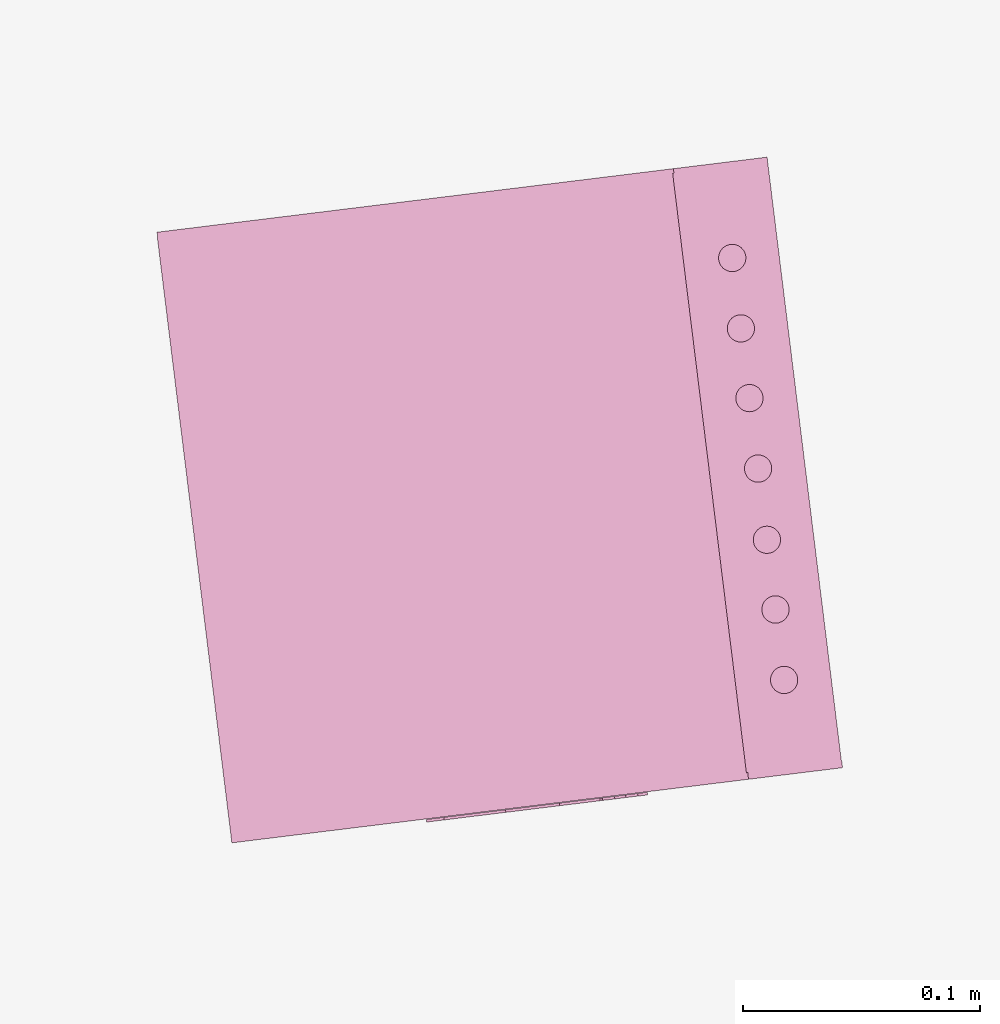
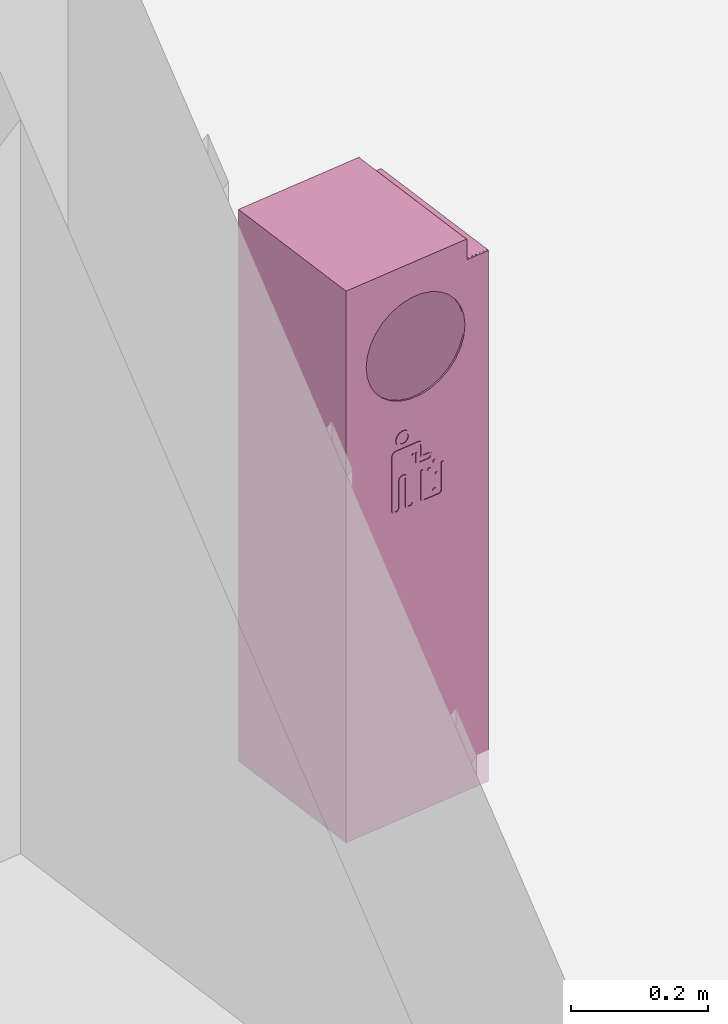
# One storey, part 59 of 75: 1 furnishing.
"""IFC2X3 building model written with IfcOpenShell, lengths in metres."""

from ifc_helpers import new_model, entity, si_unit, converted_unit, derived_unit, direction, frame, frame_2d, origin, origin_2d_with_axis, place, context, subcontext, project, spatial, polyline, circle_curve, parameter, trimmed, segment, composite_curve, rectangle, circle, hollow_circle, outline, extrude, source, transform, mapped, material, material_list, type_object, type_shapes, element, save


model = new_model("IFC2X3")

# Units and contexts
model_context = context("Model", 3, precision=1e-05, world=origin(), true_north=direction((6.123031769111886e-17, 1.0)))
body_context = subcontext(model_context, "Body", "Model", "MODEL_VIEW")
ifc_project = project(units=[si_unit("LENGTHUNIT", "METRE"), si_unit("AREAUNIT", "SQUARE_METRE"), si_unit("VOLUMEUNIT", "CUBIC_METRE"), converted_unit("PLANEANGLEUNIT", "DEGREE", entity("IfcRatioMeasure", 0.017453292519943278), si_unit("PLANEANGLEUNIT", "RADIAN"), dimensions=[0, 0, 0, 0, 0, 0, 0]), si_unit("MASSUNIT", "GRAM", prefix="KILO"), derived_unit("MASSDENSITYUNIT", [(si_unit("MASSUNIT", "GRAM", prefix="KILO"), 1), (si_unit("LENGTHUNIT", "METRE"), -3)]), derived_unit("IONCONCENTRATIONUNIT", [(si_unit("MASSUNIT", "GRAM", prefix="KILO"), 1), (si_unit("LENGTHUNIT", "METRE"), -3)]), derived_unit("MOMENTOFINERTIAUNIT", [(si_unit("LENGTHUNIT", "METRE"), 4)]), si_unit("TIMEUNIT", "SECOND"), si_unit("FREQUENCYUNIT", "HERTZ"), si_unit("THERMODYNAMICTEMPERATUREUNIT", "DEGREE_CELSIUS"), derived_unit("THERMALTRANSMITTANCEUNIT", [(si_unit("MASSUNIT", "GRAM", prefix="KILO"), 1), (si_unit("THERMODYNAMICTEMPERATUREUNIT", "KELVIN"), -1), (si_unit("TIMEUNIT", "SECOND"), -3)]), derived_unit("THERMALCONDUCTANCEUNIT", [(si_unit("MASSUNIT", "GRAM", prefix="KILO"), 1), (si_unit("THERMODYNAMICTEMPERATUREUNIT", "KELVIN"), -1), (si_unit("TIMEUNIT", "SECOND"), -3), (si_unit("LENGTHUNIT", "METRE"), 1)]), derived_unit("VOLUMETRICFLOWRATEUNIT", [(si_unit("LENGTHUNIT", "METRE"), 3), (si_unit("TIMEUNIT", "SECOND"), -1)]), derived_unit("MASSFLOWRATEUNIT", [(si_unit("MASSUNIT", "GRAM", prefix="KILO"), 1), (si_unit("TIMEUNIT", "SECOND"), -1)]), derived_unit("ROTATIONALFREQUENCYUNIT", [(si_unit("TIMEUNIT", "SECOND"), -1)]), si_unit("ELECTRICCURRENTUNIT", "AMPERE"), si_unit("ELECTRICVOLTAGEUNIT", "VOLT"), si_unit("POWERUNIT", "WATT"), si_unit("FORCEUNIT", "NEWTON", prefix="KILO"), si_unit("ILLUMINANCEUNIT", "LUX"), si_unit("LUMINOUSFLUXUNIT", "LUMEN"), si_unit("LUMINOUSINTENSITYUNIT", "CANDELA"), derived_unit("USERDEFINED", [(si_unit("MASSUNIT", "GRAM", prefix="KILO"), -1), (si_unit("LENGTHUNIT", "METRE"), -2), (si_unit("TIMEUNIT", "SECOND"), 3), (si_unit("LUMINOUSFLUXUNIT", "LUMEN"), 1)]), derived_unit("USERDEFINED", [(si_unit("MASSUNIT", "GRAM", prefix="KILO"), 1), (si_unit("TIMEUNIT", "SECOND"), -3), (si_unit("LENGTHUNIT", "METRE"), 3), (si_unit("ELECTRICCURRENTUNIT", "AMPERE"), -2)]), derived_unit("SOUNDPOWERUNIT", [(si_unit("MASSUNIT", "GRAM", prefix="KILO"), 1), (si_unit("TIMEUNIT", "SECOND"), -3), (si_unit("LENGTHUNIT", "METRE"), 2)]), derived_unit("SOUNDPRESSUREUNIT", [(si_unit("MASSUNIT", "GRAM", prefix="KILO"), 1), (si_unit("LENGTHUNIT", "METRE"), -1), (si_unit("TIMEUNIT", "SECOND"), -2)]), derived_unit("LINEARVELOCITYUNIT", [(si_unit("LENGTHUNIT", "METRE"), 1), (si_unit("TIMEUNIT", "SECOND"), -1)]), si_unit("PRESSUREUNIT", "PASCAL"), derived_unit("USERDEFINED", [(si_unit("MASSUNIT", "GRAM", prefix="KILO"), 1), (si_unit("LENGTHUNIT", "METRE"), -2), (si_unit("TIMEUNIT", "SECOND"), -2)]), derived_unit("LINEARFORCEUNIT", [(si_unit("MASSUNIT", "GRAM", prefix="KILO"), 1), (si_unit("TIMEUNIT", "SECOND"), -2)]), derived_unit("PLANARFORCEUNIT", [(si_unit("MASSUNIT", "GRAM", prefix="KILO"), 1), (si_unit("LENGTHUNIT", "METRE"), -1), (si_unit("TIMEUNIT", "SECOND"), -2)]), derived_unit("SPECIFICHEATCAPACITYUNIT", [(si_unit("THERMODYNAMICTEMPERATUREUNIT", "KELVIN"), -1), (si_unit("LENGTHUNIT", "METRE"), 2), (si_unit("TIMEUNIT", "SECOND"), -2)]), derived_unit("HEATINGVALUEUNIT", [(si_unit("LENGTHUNIT", "METRE"), 2), (si_unit("TIMEUNIT", "SECOND"), -2)]), derived_unit("VAPORPERMEABILITYUNIT", [(si_unit("LENGTHUNIT", "METRE"), -1), (si_unit("TIMEUNIT", "SECOND"), 1)]), derived_unit("DYNAMICVISCOSITYUNIT", [(si_unit("MASSUNIT", "GRAM", prefix="KILO"), 1), (si_unit("TIMEUNIT", "SECOND"), -1), (si_unit("LENGTHUNIT", "METRE"), -1)]), derived_unit("THERMALEXPANSIONCOEFFICIENTUNIT", [(si_unit("THERMODYNAMICTEMPERATUREUNIT", "KELVIN"), -1)]), derived_unit("MODULUSOFELASTICITYUNIT", [(si_unit("MASSUNIT", "GRAM", prefix="KILO"), 1), (si_unit("LENGTHUNIT", "METRE"), -1), (si_unit("TIMEUNIT", "SECOND"), -2)]), derived_unit("ISOTHERMALMOISTURECAPACITYUNIT", [(si_unit("LENGTHUNIT", "METRE"), 3), (si_unit("MASSUNIT", "GRAM", prefix="KILO"), -1)]), derived_unit("MOISTUREDIFFUSIVITYUNIT", [(si_unit("TIMEUNIT", "SECOND"), -1), (si_unit("LENGTHUNIT", "METRE"), 2)])], contexts=[model_context])

# Site, building, storey
site_placement = place(None, origin())
site = spatial("IfcSite", under=ifc_project, at=site_placement, Name="Default", CompositionType="ELEMENT")
building_placement = place(site_placement, origin())
building = spatial("IfcBuilding", under=site, at=building_placement, Name="Projeto", CompositionType="ELEMENT")
storey_placement = place(building_placement, origin())
storey = spatial("IfcBuildingStorey", under=building, at=storey_placement, Name="Nível 1", CompositionType="ELEMENT", Elevation=0.0)

# Furnishing
ifc_material_1 = material(Name="Metal")
ifc_material_2 = material(Name="Aço")
ifc_material_3 = material(Name="Metal(1)")
ifc_material_list = material_list([ifc_material_1, ifc_material_2, ifc_material_3])
furniture_type = type_object("IfcFurnitureType", Name="CS110:Lixeira Simples", material=ifc_material_list)
shared_shape = source(origin(), body_context, "Body", "SweptSolid", [
    extrude(rectangle(XDim=0.2552463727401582, YDim=0.25525227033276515, at=origin_2d_with_axis()), frame((0.011098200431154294, -0.014615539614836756, 0.00010118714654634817), z_axis=(0.0, 0.0, 1.0), x_axis=(0.0, 1.0, 0.0)), (0.0, 0.0, 1.0), 0.007939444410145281),
    extrude(rectangle(XDim=0.002807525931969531, YDim=0.2600000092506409, at=origin_2d_with_axis()), frame((0.011160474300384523, -0.14364248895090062, 0.00010118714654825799), z_axis=(0.0, 0.0, 1.0), x_axis=(0.0, 1.0, 0.0)), (0.0, 0.0, 1.0), 0.04989880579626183),
    extrude(outline(composite_curve([segment(polyline([(-0.060169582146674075, -0.037278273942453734), (0.034778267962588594, -0.037278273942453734)]), True, "CONTINUOUS"), segment(trimmed(circle_curve(frame_2d((0.034786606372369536, -0.02900575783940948), x_axis=(0.0010079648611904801, 0.9999994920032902)), 0.00827252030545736), [parameter(180.00000000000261)], [parameter(270.0)], True, "PARAMETER"), True, "CONTINUOUS"), segment(polyline([(0.043059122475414, -0.029014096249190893), (0.04309787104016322, 0.009428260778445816)]), True, "CONTINUOUS"), segment(trimmed(circle_curve(frame_2d((0.03321966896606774, 0.009889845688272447), x_axis=(0.0010079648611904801, 0.9999994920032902)), 0.009888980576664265), [parameter(267.382402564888)], [parameter(340.61759743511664)], True, "PARAMETER"), True, "CONTINUOUS"), segment(polyline([(0.03651094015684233, 0.019215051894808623), (0.017262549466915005, 0.01923445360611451)]), True, "CONTINUOUS"), segment(trimmed(circle_curve(frame_2d((0.01726467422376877, 0.02134241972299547), x_axis=(0.0010079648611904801, 0.9999994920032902)), 0.0021079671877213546), [parameter(90.00000000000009)], [parameter(180.00000000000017)], True, "PARAMETER"), False, "CONTINUOUS"), segment(polyline([(0.01515670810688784, 0.021344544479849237), (0.015165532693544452, 0.030099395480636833)]), True, "CONTINUOUS"), segment(trimmed(circle_curve(frame_2d((0.008470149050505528, 0.029878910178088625), x_axis=(0.0010079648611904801, 0.9999994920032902)), 0.006699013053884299), [parameter(271.94387463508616)], [parameter(90.00000000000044)], True, "PARAMETER"), True, "CONTINUOUS"), segment(polyline([(0.0017711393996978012, 0.02988566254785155), (0.0017536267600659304, 0.012511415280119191)]), True, "CONTINUOUS"), segment(trimmed(circle_curve(frame_2d((0.009863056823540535, 0.014226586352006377), x_axis=(0.0010079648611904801, 0.9999994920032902)), 0.008288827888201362), [parameter(102.00000000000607)], [parameter(179.99999999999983)], True, "PARAMETER"), True, "CONTINUOUS"), segment(polyline([(0.009854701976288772, 0.005937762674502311), (0.02310412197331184, 0.0059244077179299)]), True, "CONTINUOUS"), segment(trimmed(circle_curve(frame_2d((0.02310611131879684, 0.007898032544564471), x_axis=(0.0010079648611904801, 0.9999994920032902)), 0.0019736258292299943), [parameter(179.99999999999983)], [parameter(0.0)], True, "PARAMETER"), True, "CONTINUOUS"), segment(polyline([(0.02310810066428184, 0.009871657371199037), (0.009858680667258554, 0.009885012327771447)]), True, "CONTINUOUS"), segment(trimmed(circle_curve(frame_2d((0.009862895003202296, 0.014066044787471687), x_axis=(0.0010079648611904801, 0.9999994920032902)), 0.004181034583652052), [parameter(90.00000000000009)], [parameter(179.99999999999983)], True, "PARAMETER"), False, "CONTINUOUS"), segment(polyline([(0.005681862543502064, 0.0140702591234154), (0.005697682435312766, 0.02976513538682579)]), True, "CONTINUOUS"), segment(trimmed(circle_curve(frame_2d((0.008453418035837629, 0.02976235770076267), x_axis=(0.0010079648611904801, 0.9999994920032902)), 0.002755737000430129), [parameter(277.0844433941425)], [parameter(90.00000000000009)], True, "PARAMETER"), False, "CONTINUOUS"), segment(polyline([(0.011188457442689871, 0.030099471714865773), (0.011179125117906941, 0.020840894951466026)]), True, "CONTINUOUS"), segment(trimmed(circle_curve(frame_2d((0.017264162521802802, 0.020834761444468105), x_axis=(0.0010079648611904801, 0.9999994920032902)), 0.00608504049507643), [parameter(90.00000000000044)], [parameter(113.06722029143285)], True, "PARAMETER"), True, "CONTINUOUS"), segment(trimmed(circle_curve(frame_2d((0.016650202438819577, 0.02057403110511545), x_axis=(0.0010079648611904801, 0.9999994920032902)), 0.005418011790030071), [parameter(113.06722029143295)], [parameter(186.50383823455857)], True, "PARAMETER"), True, "CONTINUOUS"), segment(polyline([(0.017258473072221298, 0.015190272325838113), (0.03462911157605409, 0.01517276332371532)]), True, "CONTINUOUS"), segment(trimmed(circle_curve(frame_2d((0.034624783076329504, 0.010878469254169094), x_axis=(0.0010079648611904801, 0.9999994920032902)), 0.0042942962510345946), [parameter(269.9999999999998)], [parameter(0.0)], True, "PARAMETER"), False, "CONTINUOUS"), segment(polyline([(0.03891907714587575, 0.010874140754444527), (0.03887865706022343, -0.029226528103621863)]), True, "CONTINUOUS"), segment(trimmed(circle_curve(frame_2d((0.03478239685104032, -0.029222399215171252), x_axis=(0.0010079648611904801, 0.9999994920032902)), 0.004096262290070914), [parameter(180.00000000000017)], [parameter(269.99999999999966)], True, "PARAMETER"), False, "CONTINUOUS"), segment(polyline([(0.03477826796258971, -0.033318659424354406), (-0.06016958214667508, -0.033222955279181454)]), True, "CONTINUOUS"), segment(trimmed(circle_curve(frame_2d((-0.0601653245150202, -0.0289989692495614), x_axis=(0.0010079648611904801, 0.9999994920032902)), 0.004223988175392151), [parameter(0.0)], [parameter(179.99999999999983)], True, "PARAMETER"), False, "CONTINUOUS"), segment(polyline([(-0.06016106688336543, -0.024774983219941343), (-0.01262957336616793, -0.024822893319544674)]), True, "CONTINUOUS"), segment(trimmed(circle_curve(frame_2d((-0.01262154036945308, -0.01685337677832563), x_axis=(0.0010079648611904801, 0.9999994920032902)), 0.00796952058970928), [parameter(180.0000000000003)], [parameter(0.0)], True, "PARAMETER"), True, "CONTINUOUS"), segment(polyline([(-0.012613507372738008, -0.008883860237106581), (-0.06016958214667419, -0.008835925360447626)]), True, "CONTINUOUS"), segment(trimmed(circle_curve(frame_2d((-0.060165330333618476, -0.0046177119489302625), x_axis=(0.0010079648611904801, 0.9999994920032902)), 0.004218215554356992), [parameter(352.41126188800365)], [parameter(179.99999999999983)], True, "PARAMETER"), False, "CONTINUOUS"), segment(polyline([(-0.05960405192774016, -0.00043700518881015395), (0.023438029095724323, -0.000520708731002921)]), True, "CONTINUOUS"), segment(trimmed(circle_curve(frame_2d((0.023440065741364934, 0.0014998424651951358), x_axis=(0.0010079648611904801, 0.9999994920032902)), 0.002020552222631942), [parameter(179.99999999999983)], [parameter(0.0)], True, "PARAMETER"), True, "CONTINUOUS"), segment(polyline([(0.02344210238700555, 0.003520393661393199), (-0.06015295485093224, 0.003604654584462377)]), True, "CONTINUOUS"), segment(trimmed(circle_curve(frame_2d((-0.0601612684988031, -0.004643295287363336), x_axis=(0.0010079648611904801, 0.9999994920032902)), 0.008247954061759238), [parameter(4.579998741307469e-13)], [parameter(179.99999999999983)], True, "PARAMETER"), True, "CONTINUOUS"), segment(polyline([(-0.06016958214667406, -0.01289124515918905), (-0.012617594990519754, -0.01293917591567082)]), True, "CONTINUOUS"), segment(trimmed(circle_curve(frame_2d((-0.012621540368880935, -0.016853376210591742), x_axis=(0.0010079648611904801, 0.9999994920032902)), 0.003914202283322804), [parameter(180.00000000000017)], [parameter(0.0)], True, "PARAMETER"), False, "CONTINUOUS"), segment(polyline([(-0.012625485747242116, -0.020767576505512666), (-0.06015289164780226, -0.02071967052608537)]), True, "CONTINUOUS"), segment(trimmed(circle_curve(frame_2d((-0.06016118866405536, -0.028951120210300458), x_axis=(0.0010079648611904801, 0.9999994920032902)), 0.008231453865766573), [parameter(4.579998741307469e-13)], [parameter(180.00000000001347)], True, "PARAMETER"), True, "CONTINUOUS")], self_intersect=False)), frame((0.001275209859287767, -0.14639667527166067, 0.615086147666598), z_axis=(0.0, 1.0, 0.0), x_axis=(0.0010079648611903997, 0.0, 0.9999994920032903)), (0.0, 0.0, 1.0), 0.0011340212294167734),
    extrude(circle(Radius=0.0027431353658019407, at=origin_2d_with_axis()), frame((0.04600933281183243, -0.14639667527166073, 0.5878105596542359), z_axis=(0.0, 1.0, 0.0), x_axis=(1.0, 0.0, 0.0)), (0.0, 0.0, 1.0), 0.0011340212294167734),
    extrude(outline(composite_curve([segment(trimmed(circle_curve(frame_2d((-0.010133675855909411, 0.016442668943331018), x_axis=(1.0, 0.0)), 0.009242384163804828), [parameter(90.0000000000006)], [parameter(185.99999999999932)], True, "PARAMETER"), True, "CONTINUOUS"), segment(polyline([(-0.019325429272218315, 0.01547657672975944), (-0.01932542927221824, -0.029209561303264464)]), True, "CONTINUOUS"), segment(polyline([(-0.01932542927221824, -0.029209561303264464), (-0.019325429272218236, -0.03241102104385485)]), True, "CONTINUOUS"), segment(polyline([(-0.019325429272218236, -0.03241102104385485), (-0.015290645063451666, -0.03241102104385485)]), True, "CONTINUOUS"), segment(polyline([(-0.015290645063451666, -0.03241102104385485), (-0.015290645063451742, 0.015330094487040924)]), True, "CONTINUOUS"), segment(trimmed(circle_curve(frame_2d((-0.009942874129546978, 0.01628766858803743), x_axis=(1.0, 0.0)), 0.005432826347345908), [parameter(85.15785050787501)], [parameter(190.15182061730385)], True, "PARAMETER"), False, "CONTINUOUS"), segment(polyline([(-0.009484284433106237, 0.021701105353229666), (0.013416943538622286, 0.021701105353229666)]), True, "CONTINUOUS"), segment(trimmed(circle_curve(frame_2d((0.013416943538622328, 0.016993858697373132), x_axis=(1.0, 0.0)), 0.004707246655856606), [parameter(354.000000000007)], [parameter(90.0000000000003)], True, "PARAMETER"), False, "CONTINUOUS"), segment(polyline([(0.01809840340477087, 0.016501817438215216), (0.018098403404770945, -0.03241102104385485)]), True, "CONTINUOUS"), segment(polyline([(0.018098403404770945, -0.03241102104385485), (0.022216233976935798, -0.03241102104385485)]), True, "CONTINUOUS"), segment(polyline([(0.022216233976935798, -0.03241102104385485), (0.022185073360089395, 0.016772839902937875)]), True, "CONTINUOUS"), segment(trimmed(circle_curve(frame_2d((0.012847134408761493, 0.01643371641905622), x_axis=(1.0, 0.0)), 0.009344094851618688), [parameter(2.079881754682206)], [parameter(81.92011824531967)], True, "PARAMETER"), True, "CONTINUOUS"), segment(polyline([(0.014160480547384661, 0.02568505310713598), (-0.010133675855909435, 0.02568505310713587)]), True, "CONTINUOUS")], self_intersect=False)), frame((0.035797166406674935, -0.14639667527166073, 0.5721260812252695), z_axis=(0.0, 1.0, 0.0), x_axis=(1.0, 0.0, 0.0)), (0.0, 0.0, 1.0), 0.0011340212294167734),
    extrude(circle(Radius=0.0025582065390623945, at=origin_2d_with_axis()), frame((0.041513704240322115, -0.14639667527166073, 0.6113820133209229), z_axis=(0.0, 1.0, 0.0), x_axis=(1.0, 0.0, 0.0)), (0.0, 0.0, 1.0), 0.0011340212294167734),
    extrude(circle(Radius=0.002777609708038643, at=origin_2d_with_axis()), frame((0.032157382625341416, -0.14639667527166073, 0.6004056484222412), z_axis=(0.0, 1.0, 0.0), x_axis=(1.0, 0.0, 0.0)), (0.0, 0.0, 1.0), 0.0011340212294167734),
    extrude(circle(Radius=0.0027551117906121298, at=origin_2d_with_axis()), frame((0.04151368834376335, -0.14639667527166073, 0.5608417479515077), z_axis=(0.0, 1.0, 0.0), x_axis=(1.0, 0.0, 0.0)), (0.0, 0.0, 1.0), 0.0011340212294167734),
    extrude(hollow_circle(Radius=0.013154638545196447, WallThickness=0.004019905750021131, at=frame_2d((0.0, -1.353583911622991e-16), x_axis=(1.0, 0.0))), frame((-0.015491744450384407, -0.14639667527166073, 0.6757249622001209), z_axis=(0.0, 1.0, 0.0), x_axis=(1.0, 0.0, 0.0)), (0.0, 0.0, 1.0), 0.0011340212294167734),
    extrude(outline(polyline([(-0.0190625, -0.1276231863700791), (0.0190625, -0.1276231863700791), (0.0190625, 0.1276231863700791), (-0.0190625, 0.12762318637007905), (-0.0190625, -0.1276231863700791)]), holes=[composite_curve([segment(trimmed(circle_curve(frame_2d((-0.001551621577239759, -0.08906790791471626), x_axis=(-1.0, 0.0)), 0.0057793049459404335), [parameter(3.5622212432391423e-13)], [parameter(179.99999999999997)], True, "PARAMETER"), False, "CONTINUOUS"), segment(trimmed(circle_curve(frame_2d((-0.001551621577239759, -0.08906790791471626), x_axis=(-1.0, 0.0)), 0.0057793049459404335), [parameter(179.99999999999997)], [parameter(0.0)], True, "PARAMETER"), False, "CONTINUOUS")], self_intersect=False), composite_curve([segment(trimmed(circle_curve(frame_2d((-0.0015516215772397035, -0.05906790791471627), x_axis=(-1.0, 0.0)), 0.0057793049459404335), [parameter(3.5622212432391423e-13)], [parameter(179.99999999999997)], True, "PARAMETER"), False, "CONTINUOUS"), segment(trimmed(circle_curve(frame_2d((-0.0015516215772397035, -0.05906790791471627), x_axis=(-1.0, 0.0)), 0.0057793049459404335), [parameter(179.99999999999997)], [parameter(0.0)], True, "PARAMETER"), False, "CONTINUOUS")], self_intersect=False), composite_curve([segment(trimmed(circle_curve(frame_2d((-0.0015516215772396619, -0.029396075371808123), x_axis=(-1.0, 0.0)), 0.0057793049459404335), [parameter(3.053332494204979e-13)], [parameter(180.0)], True, "PARAMETER"), False, "CONTINUOUS"), segment(trimmed(circle_curve(frame_2d((-0.0015516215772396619, -0.029396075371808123), x_axis=(-1.0, 0.0)), 0.0057793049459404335), [parameter(180.0)], [parameter(0.0)], True, "PARAMETER"), False, "CONTINUOUS")], self_intersect=False), composite_curve([segment(trimmed(circle_curve(frame_2d((-0.0015516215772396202, 0.0006039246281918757), x_axis=(-1.0, 0.0)), 0.0057793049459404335), [parameter(3.053332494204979e-13)], [parameter(180.0)], True, "PARAMETER"), False, "CONTINUOUS"), segment(trimmed(circle_curve(frame_2d((-0.0015516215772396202, 0.0006039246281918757), x_axis=(-1.0, 0.0)), 0.0057793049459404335), [parameter(180.0)], [parameter(0.0)], True, "PARAMETER"), False, "CONTINUOUS")], self_intersect=False), composite_curve([segment(trimmed(circle_curve(frame_2d((-0.0015516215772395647, 0.030932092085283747), x_axis=(-1.0, 0.0)), 0.0057793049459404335), [parameter(2.544443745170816e-13)], [parameter(179.9999999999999)], True, "PARAMETER"), False, "CONTINUOUS"), segment(trimmed(circle_curve(frame_2d((-0.0015516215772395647, 0.030932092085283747), x_axis=(-1.0, 0.0)), 0.0057793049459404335), [parameter(179.9999999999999)], [parameter(359.9999999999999)], True, "PARAMETER"), False, "CONTINUOUS")], self_intersect=False), composite_curve([segment(trimmed(circle_curve(frame_2d((-0.001551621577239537, 0.06060392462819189), x_axis=(-1.0, 0.0)), 0.0057793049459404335), [parameter(5.088887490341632e-13)], [parameter(179.99999999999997)], True, "PARAMETER"), False, "CONTINUOUS"), segment(trimmed(circle_curve(frame_2d((-0.001551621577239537, 0.06060392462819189), x_axis=(-1.0, 0.0)), 0.0057793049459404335), [parameter(179.99999999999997)], [parameter(359.99999999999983)], True, "PARAMETER"), False, "CONTINUOUS")], self_intersect=False), composite_curve([segment(trimmed(circle_curve(frame_2d((-0.0015516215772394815, 0.09060392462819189), x_axis=(-1.0, 0.0)), 0.0057793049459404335), [parameter(3.5622212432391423e-13)], [parameter(180.00000000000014)], True, "PARAMETER"), False, "CONTINUOUS"), segment(trimmed(circle_curve(frame_2d((-0.0015516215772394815, 0.09060392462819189), x_axis=(-1.0, 0.0)), 0.0057793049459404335), [parameter(180.00000000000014)], [parameter(0.0)], True, "PARAMETER"), False, "CONTINUOUS")], self_intersect=False)]), frame((0.11966183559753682, -0.014615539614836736, 0.9407100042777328), z_axis=(0.0, 0.0, 1.0), x_axis=(-1.0, 0.0, 0.0)), (0.0, 0.0, 1.0), 0.0024447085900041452),
    extrude(rectangle(XDim=0.2148156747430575, YDim=0.2552463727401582, at=frame_2d((0.0, -2.7755575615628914e-17), x_axis=(1.0, 0.0))), frame((-0.00912009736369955, -0.014615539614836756, 0.9740841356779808), z_axis=(0.0, 0.0, 1.0), x_axis=(-1.0, 0.0, 0.0)), (0.0, 0.0, 1.0), 0.005915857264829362),
    extrude(rectangle(XDim=0.2552463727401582, YDim=0.0023115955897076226, at=origin_2d_with_axis()), frame((0.13988013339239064, -0.014615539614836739, 0.00010118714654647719), z_axis=(0.0, 0.0, 1.0), x_axis=(0.0, 1.0, 0.0)), (0.0, 0.0, 1.0), 0.9430535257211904),
    extrude(rectangle(XDim=0.2552463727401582, YDim=0.0023115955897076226, at=origin_2d_with_axis()), frame((0.099443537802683, -0.014615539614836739, 0.049999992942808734), z_axis=(0.0, 0.0, 1.0), x_axis=(0.0, 1.0, 0.0)), (0.0, 0.0, 1.0), 0.93),
    extrude(rectangle(XDim=0.2552463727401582, YDim=0.0023115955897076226, at=origin_2d_with_axis()), frame((-0.1176837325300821, -0.014615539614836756, 0.00010118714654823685), z_axis=(0.0, 0.0, 1.0), x_axis=(0.0, 1.0, 0.0)), (0.0, 0.0, 1.0), 0.9798988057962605),
    extrude(outline(polyline([(-0.3389662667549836, 0.05999034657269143), (-0.3389662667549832, -0.15985615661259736), (0.6409325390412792, -0.15985615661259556), (0.6409325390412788, 0.09986581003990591), (-0.3019662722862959, 0.09986581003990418), (-0.30196627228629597, 0.05999034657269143), (-0.3389662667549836, 0.05999034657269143)])), frame((0.0411701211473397, 0.11300764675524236, 0.6410337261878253), z_axis=(0.0, -1.0, 0.0), x_axis=(0.0, 0.0, -1.0)), (0.0, 0.0, -1.0), 0.0019326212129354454),
    extrude(outline(polyline([(-0.32233333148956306, 0.059999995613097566), (-0.3223333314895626, -0.16000000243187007), (0.6076666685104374, -0.16000000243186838), (0.6076666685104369, 0.1000000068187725), (-0.285333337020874, 0.10000000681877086), (-0.28533333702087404, 0.059999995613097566), (-0.32233333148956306, 0.059999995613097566)]), holes=[composite_curve([segment(trimmed(circle_curve(frame_2d((-0.1708908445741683, -0.033309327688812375), x_axis=(0.0, 1.0)), 0.08999999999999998), [parameter(3.5622212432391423e-13)], [parameter(179.99999999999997)], True, "PARAMETER"), False, "CONTINUOUS"), segment(trimmed(circle_curve(frame_2d((-0.1708908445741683, -0.033309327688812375), x_axis=(0.0, 1.0)), 0.08999999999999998), [parameter(179.99999999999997)], [parameter(0.0)], True, "PARAMETER"), False, "CONTINUOUS")], self_intersect=False)]), frame((0.041160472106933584, -0.1450462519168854, 0.6576666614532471), z_axis=(0.0, -1.0, 0.0), x_axis=(0.0, 0.0, -1.0)), (0.0, 0.0, -1.0), 0.002807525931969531),
])
type_shapes(furniture_type, [shared_shape])
furnishing_placement = place(storey_placement, frame((-14.337702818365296, 32.706773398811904, -2.656983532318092), z_axis=(0.0, 0.0, 1.0), x_axis=(0.9925113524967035, 0.12215242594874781, 0.0)))
element("IfcFurnishingElement", 1, at=furnishing_placement, inside=storey, type_object=furniture_type, material=ifc_material_list, Name="CS110:Lixeira Simples", ObjectType="CS110:Lixeira Simples", context=body_context, shape_type="MappedRepresentation", body=[
    mapped(shared_shape, transform((0.0, 0.0, 0.0), scale=1.0)),
])

save(model, "model.ifc")
